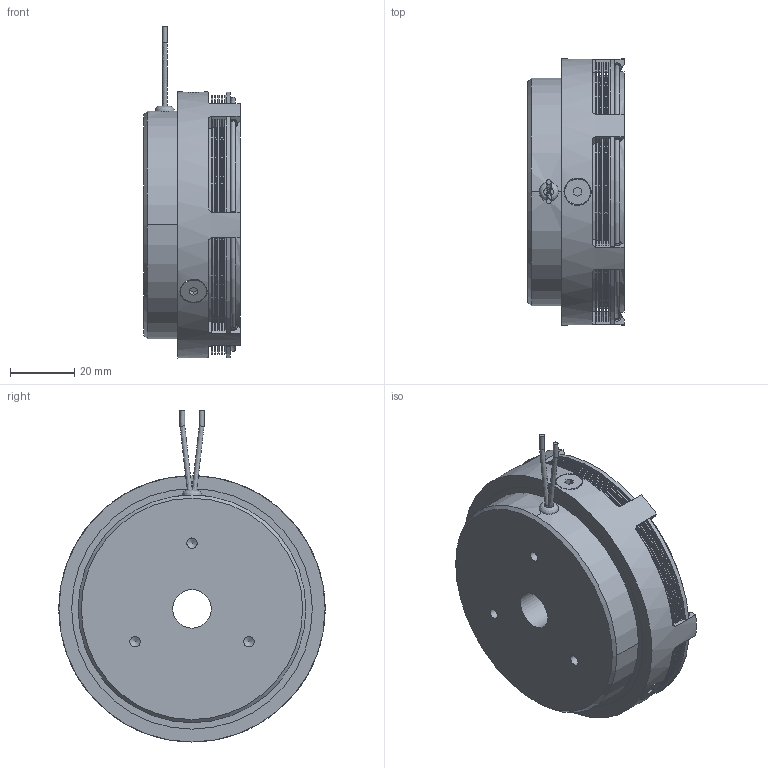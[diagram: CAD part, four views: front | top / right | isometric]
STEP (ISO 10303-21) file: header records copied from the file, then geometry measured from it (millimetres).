
FILE_DESCRIPTION(/* description */ (''),/* implementation_level */ '2;1');
FILE_NAME(/* name */ 'X:\INVENTOR\DISEGNI\05_Friz_Elettmag-Lam\05_06 EC_F\05_06_082_01 EC_F082\05_06_082_01 EC_F082@STEP.stp',/* time_stamp */ '2023-03-09T11:42:34+01:00',/* author */ ('alessio'),/* organization */ (''),/* preprocessor_version */ 'ST-DEVELOPER v18.1',/* originating_system */ 'Autodesk Inventor 2021',/* authorisation */ '');
FILE_SCHEMA (('AUTOMOTIVE_DESIGN { 1 0 10303 214 3 1 1 }'));
Length unit declared in the file: millimetre
Products named in the file (1): 05_06_082_01 EC_F082
Bounding box: 30 x 83 x 103.5 mm (x, y, z)
Volume: 119710.1 mm3; surface area: 76283 mm2
Topology: 8 solids, 11 shells, 934 faces, 2704 edges, 1792 vertices
Faces by surface type: cylinder 658, plane 232, cone 30, torus 9, bspline 5
Full cylindrical faces by diameter (mm): 1.5 x7, 3.242 x6, 4 x3, 4.5 x3, 8 x3, 8.5 x3, 12 x1, 34 x7, 48 x1, 66 x1, 72.4 x4, 75 x1, 83 x1
Entity records: 33615 total; most frequent: CARTESIAN_POINT 6637, DIRECTION 5880, ORIENTED_EDGE 5402, EDGE_CURVE 2701, AXIS2_PLACEMENT_3D 2355, VERTEX_POINT 1792, CIRCLE 1371, LINE 1170
